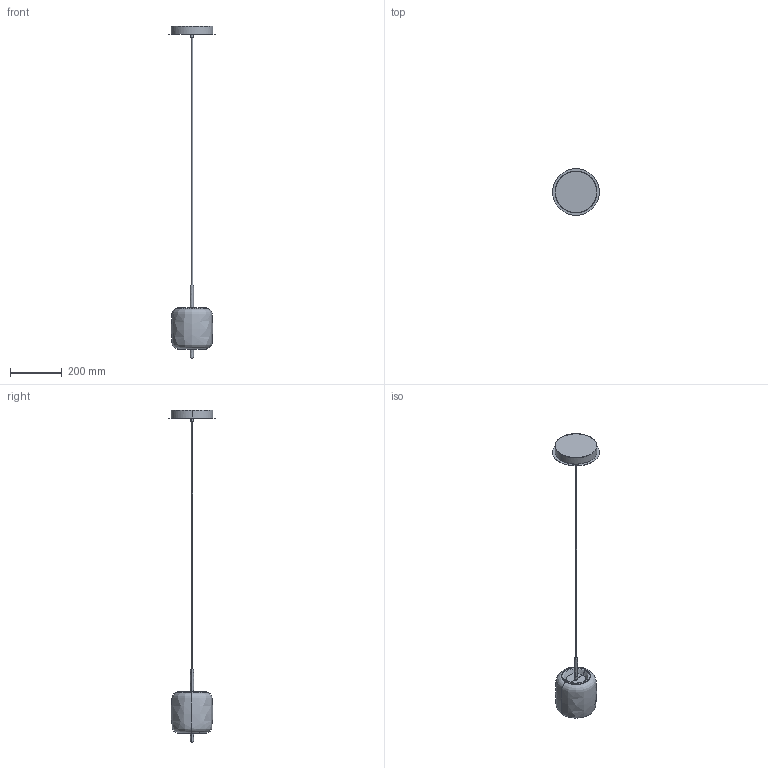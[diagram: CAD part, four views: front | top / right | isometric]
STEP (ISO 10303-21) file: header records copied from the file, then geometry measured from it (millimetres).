
FILE_DESCRIPTION(/* description */ (''),/* implementation_level */ '2;1');
FILE_NAME(/* name */ '1083A-~2',/* time_stamp */ '2023-11-06T14:19:37+01:00',/* author */ (''),/* organization */ (''),/* preprocessor_version */ 'ST-DEVELOPER v16.5',/* originating_system */ '',/* authorisation */ '');
FILE_SCHEMA (('AUTOMOTIVE_DESIGN'));
Length unit declared in the file: millimetre
Products named in the file (1): Document
Bounding box: 180 x 179.66 x 1277.57 mm (x, y, z)
Volume: 485075.6 mm3; surface area: 373489.1 mm2
Topology: 9 solids, 9 shells, 97 faces, 193 edges, 103 vertices
Faces by surface type: bspline 97
Entity records: 5816 total; most frequent: CARTESIAN_POINT 3442, B_SPLINE_CURVE_WITH_KNOTS 402, ORIENTED_EDGE 376, PCURVE 376, DEFINITIONAL_REPRESENTATION 376, SURFACE_CURVE 188, EDGE_CURVE 188, EDGE_LOOP 102
